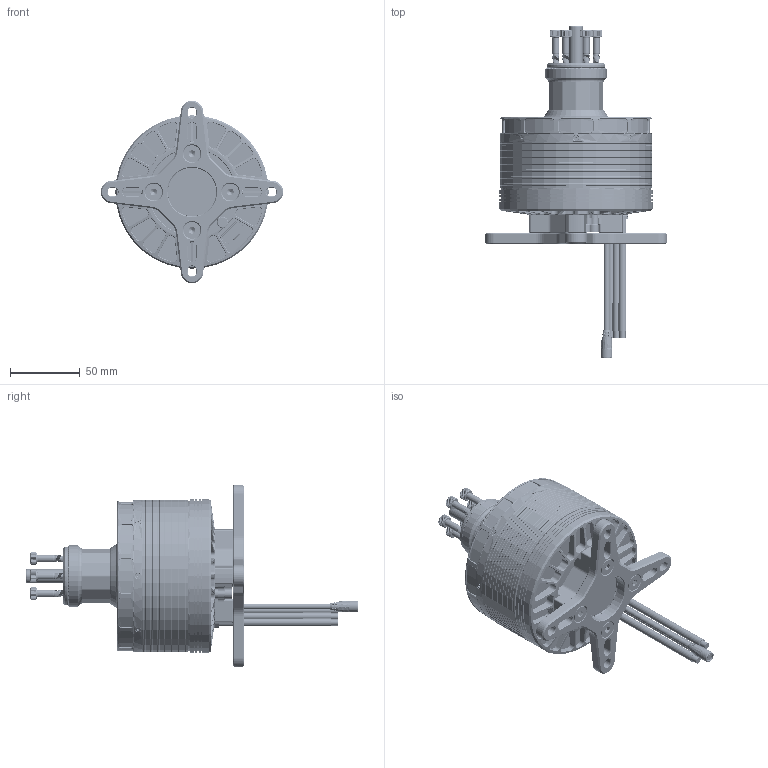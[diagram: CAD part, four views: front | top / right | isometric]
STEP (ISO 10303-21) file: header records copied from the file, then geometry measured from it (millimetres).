
FILE_DESCRIPTION (( 'STEP AP214' ), '1' );
FILE_NAME ('勤俋3D-10030.STEP', '2026-01-06T00:59:48', ( '' ), ( '' ), 'SwSTEP 2.0', 'SolidWorks 2021', '' );
FILE_SCHEMA (( 'AUTOMOTIVE_DESIGN' ));
Length unit declared in the file: millimetre
Products named in the file (1): 勤俋3D-10030
Bounding box: 130.94 x 238.1 x 131 mm (x, y, z)
Volume: 732978 mm3; surface area: 119138.3 mm2
Topology: 21 solids, 39 shells, 12042 faces, 31949 edges, 20011 vertices
Faces by surface type: cylinder 3846, plane 3231, bspline 2950, cone 1276, torus 691, sphere 48
Entity records: 613876 total; most frequent: CARTESIAN_POINT 224429, ORIENTED_EDGE 63834, DIRECTION 38743, EDGE_CURVE 31917, VERTEX_POINT 20011, B_SPLINE_CURVE_WITH_KNOTS 16083, AXIS2_PLACEMENT_3D 14568, EDGE_LOOP 12286
